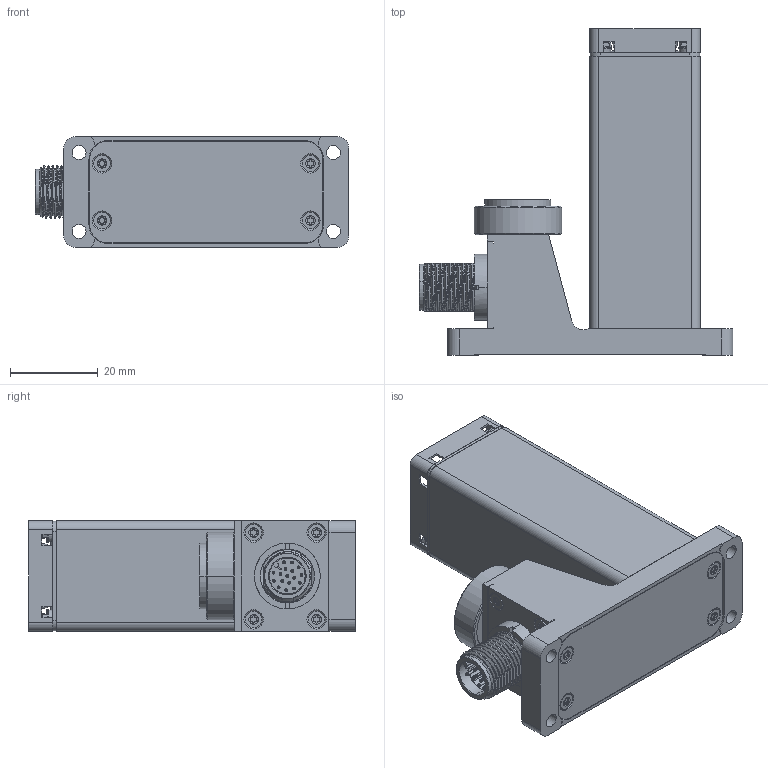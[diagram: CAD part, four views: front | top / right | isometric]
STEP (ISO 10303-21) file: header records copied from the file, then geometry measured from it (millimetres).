
FILE_DESCRIPTION((''),'2;1');
FILE_NAME('CUSTOMER_SW0001','2019-10-28T12:25:45',('scheu-1'),(''),'CREO PARAMETRIC BY PTC INC, 2018260','CREO PARAMETRIC BY PTC INC, 2018260','');
FILE_SCHEMA(('CONFIG_CONTROL_DESIGN'));
Products named in the file (1): CUSTOMER_SW0001
Bounding box: 71.5 x 74.45 x 25.2 mm (x, y, z)
Volume: 61520 mm3; surface area: 18421.8 mm2
Topology: 1 solids, 2 shells, 818 faces, 2139 edges, 1354 vertices
Faces by surface type: cylinder 312, plane 248, cone 109, bspline 88, torus 45, sphere 16
Entity records: 50321 total; most frequent: CARTESIAN_POINT 30491, ORIENTED_EDGE 4278, DIRECTION 4064, EDGE_CURVE 2139, AXIS2_PLACEMENT_3D 1626, VERTEX_POINT 1354, EDGE_LOOP 909, CIRCLE 896
